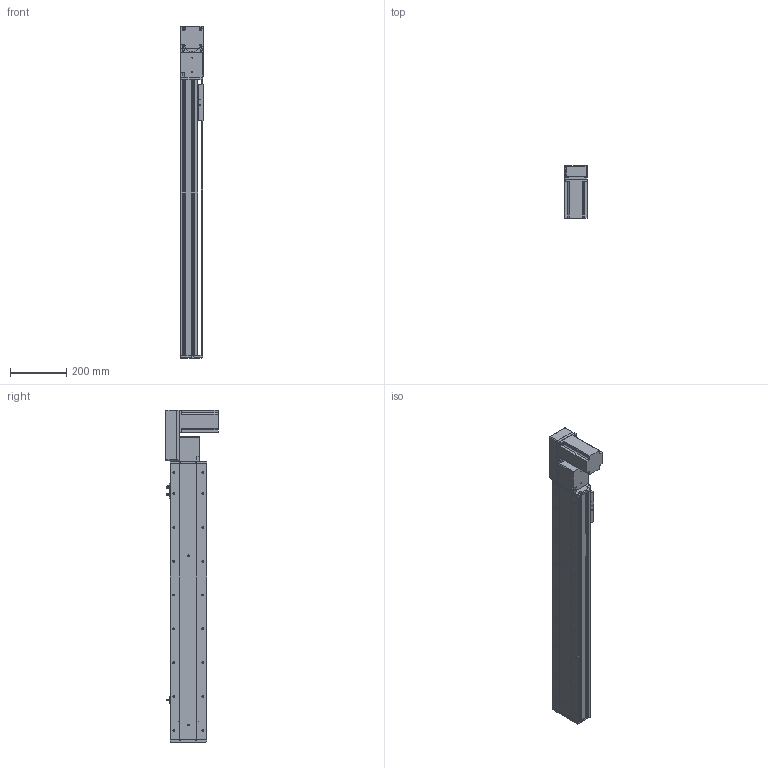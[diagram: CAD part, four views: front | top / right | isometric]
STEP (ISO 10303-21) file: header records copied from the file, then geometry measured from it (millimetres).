
FILE_DESCRIPTION (( 'STEP AP214' ), '1' );
FILE_NAME ('KSD130B-S750-MRB-CM.STEP', '2019-11-15T06:18:23', ( '微软用户' ), ( '微软中国' ), 'SwSTEP 2.0', 'SolidWorks 2014', '' );
FILE_SCHEMA (( 'AUTOMOTIVE_DESIGN' ));
Length unit declared in the file: millimetre
Products named in the file (12): 130宽马达安装板同步带半封闭; 130宽同步带安装座半封闭; 130宽端盖同步带半封闭; 130宽底板半封闭同步带-750行程; KSD130B-S750-MRB-CM; 台达ECMA－C20807AS伺服电机; 130宽模组保护罩上下左右折-同步带; 130宽模组马达安装板连板左右折同步带; 覜茼え100遵圉猾敕; U倰嫖萇EEㄜSX672; 130宽盖板半封闭同步带-750行程; 130宽马达安装板同步带右-改镜向_默认<按加工>
Assembly tree (13 placements, depth 2):
  KSD130B-S750-MRB-CM
    130宽底板半封闭同步带-750行程
    130宽端盖同步带半封闭
    130宽同步带安装座半封闭
    130宽马达安装板同步带半封闭
    130宽马达安装板同步带右-改镜向_默认<按加工>
    130宽盖板半封闭同步带-750行程
    U倰嫖萇EEㄜSX672  x3
    覜茼え100遵圉猾敕
    130宽模组马达安装板连板左右折同步带
    130宽模组保护罩上下左右折-同步带
    台达ECMA－C20807AS伺服电机
Bounding box: 81 x 184.8 x 1177 mm (x, y, z)
Volume: 4313403.6 mm3; surface area: 1154929.6 mm2
Topology: 14 solids, 14 shells, 1479 faces, 4201 edges, 2691 vertices
Faces by surface type: cylinder 702, plane 618, cone 159
Entity records: 48147 total; most frequent: CARTESIAN_POINT 8828, DIRECTION 7347, ORIENTED_EDGE 7070, EDGE_CURVE 3535, AXIS2_PLACEMENT_3D 2670, VERTEX_POINT 2315, VECTOR 2007, LINE 2007
